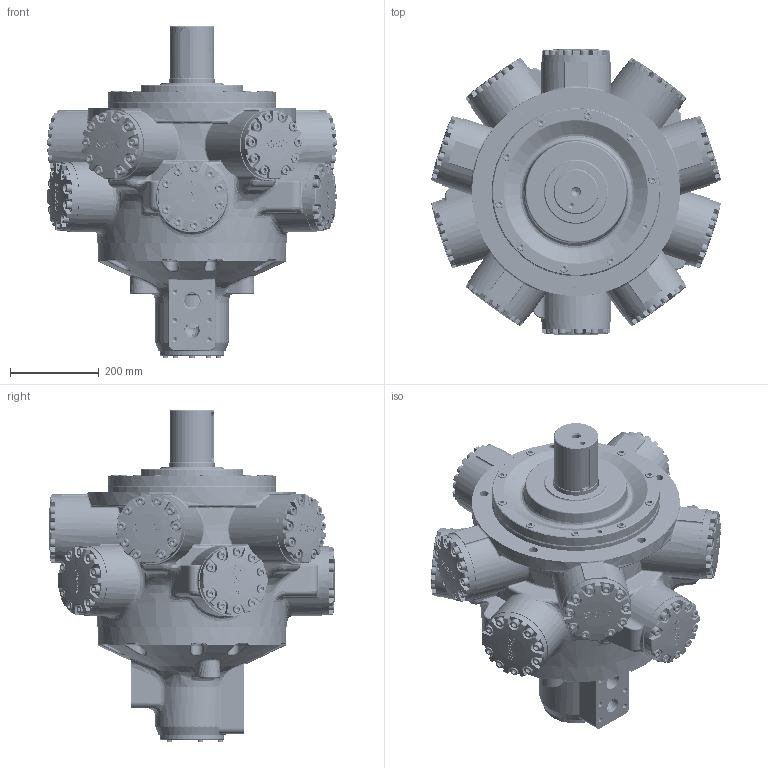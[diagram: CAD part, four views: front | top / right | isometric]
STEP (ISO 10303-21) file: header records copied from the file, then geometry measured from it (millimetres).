
FILE_DESCRIPTION((''),'2;1');
FILE_NAME('I:\3D Step files\APPROVED 3D MODELS FOR WEB\Staffa\HMHDB400 P 70.stp','2010-01-04T11:05:12',('mnorman'),(''),'Autodesk Inventor 2010','Autodesk Inventor 2010','');
FILE_SCHEMA(('AUTOMOTIVE_DESIGN { 1 0 10303 214 1 1 1 1 }'));
Length unit declared in the file: millimetre
Products named in the file (1): Part1
Bounding box: 652.77 x 643.6 x 748.42 mm (x, y, z)
Volume: 55755135.9 mm3; surface area: 4099905.7 mm2
Topology: 247 solids, 247 shells, 7710 faces, 18843 edges, 11748 vertices
Faces by surface type: bspline 3174, plane 2476, cylinder 1340, cone 434, torus 286
Full cylindrical faces by diameter (mm): 3 x2, 7.938 x5, 11.328 x50, 11.913 x5, 12.7 x120, 13.5 x50, 15.875 x10, 17.526 x2, 19.05 x120, 20.6 x50, 35.052 x3, 38.1 x7, 63.5 x1, 79.375 x1, 88.9 x1, 88.951 x1, 90.5 x1, 91.821 x7, 92.075 x1, 92.15 x10, 92.151 x1, 100.01 x1, 101.282 x2, 101.485 x20, 101.575 x11, 101.585 x9, 101.605 x1, 101.651 x1, 102.171 x1, 105.664 x1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
Entity records: 317730 total; most frequent: CARTESIAN_POINT 160019, ORIENTED_EDGE 32648, DIRECTION 24112, EDGE_CURVE 16324, VERTEX_POINT 10875, EDGE_LOOP 9799, AXIS2_PLACEMENT_3D 8966, FACE_OUTER_BOUND 7709
